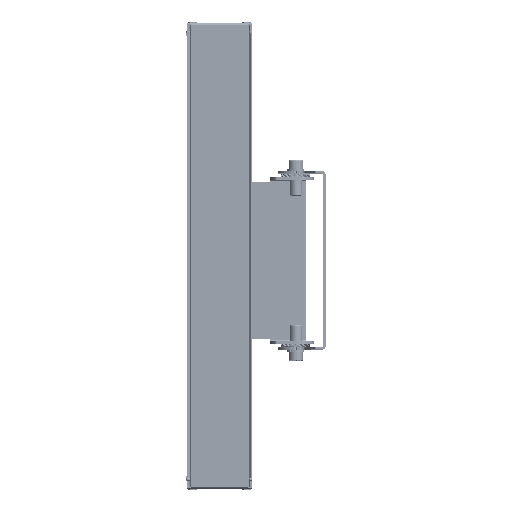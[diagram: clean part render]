
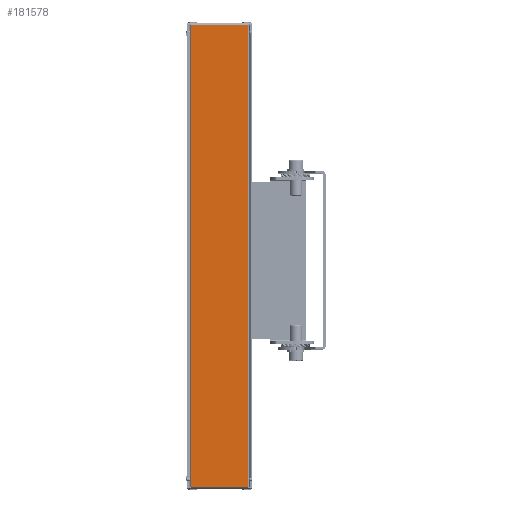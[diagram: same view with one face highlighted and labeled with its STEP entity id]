
A CAD part, top view. The second image highlights one B-rep face of the part: STEP entity #181578.
In plain terms, the highlighted planar face has unit normal (0, 0, 1).
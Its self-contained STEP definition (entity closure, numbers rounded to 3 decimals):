
#25481=ORIENTED_EDGE('',*,*,#61663,.T.);
#25482=ORIENTED_EDGE('',*,*,#61664,.T.);
#25483=ORIENTED_EDGE('',*,*,#61665,.T.);
#25484=ORIENTED_EDGE('',*,*,#61666,.T.);
#61663=EDGE_CURVE('',#80414,#80415,#93138,.T.);
#61664=EDGE_CURVE('',#80415,#80416,#93139,.T.);
#61665=EDGE_CURVE('',#80416,#80417,#93140,.T.);
#61666=EDGE_CURVE('',#80417,#80414,#93141,.T.);
#80414=VERTEX_POINT('',#774016);
#80415=VERTEX_POINT('',#774017);
#80416=VERTEX_POINT('',#774019);
#80417=VERTEX_POINT('',#774021);
#93138=LINE('',#774015,#102028);
#93139=LINE('',#774018,#102029);
#93140=LINE('',#774020,#102030);
#93141=LINE('',#774022,#102031);
#102028=VECTOR('',#208476,1000.);
#102029=VECTOR('',#208477,1000.);
#102030=VECTOR('',#208478,1000.);
#102031=VECTOR('',#208479,1000.);
#110390=EDGE_LOOP('',(#25481,#25482,#25483,#25484));
#118576=FACE_BOUND('',#110390,.T.);
#125444=PLANE('',#190331);
#181578=ADVANCED_FACE('',(#118576),#125444,.F.);
#190331=AXIS2_PLACEMENT_3D('',#774014,#208474,#208475);
#208474=DIRECTION('',(0.,0.,-1.));
#208475=DIRECTION('',(-1.,0.,0.));
#208476=DIRECTION('',(-1.,0.,0.));
#208477=DIRECTION('',(0.,-1.,0.));
#208478=DIRECTION('',(1.,0.,0.));
#208479=DIRECTION('',(0.,1.,0.));
#774014=CARTESIAN_POINT('',(20.,-163.718,-0.3));
#774015=CARTESIAN_POINT('',(20.,154.782,-0.3));
#774016=CARTESIAN_POINT('',(19.5,154.782,-0.3));
#774017=CARTESIAN_POINT('',(-19.5,154.782,-0.3));
#774018=CARTESIAN_POINT('',(-19.5,-163.718,-0.3));
#774019=CARTESIAN_POINT('',(-19.5,-163.218,-0.3));
#774020=CARTESIAN_POINT('',(20.,-163.218,-0.3));
#774021=CARTESIAN_POINT('',(19.5,-163.218,-0.3));
#774022=CARTESIAN_POINT('',(19.5,-163.718,-0.3));
